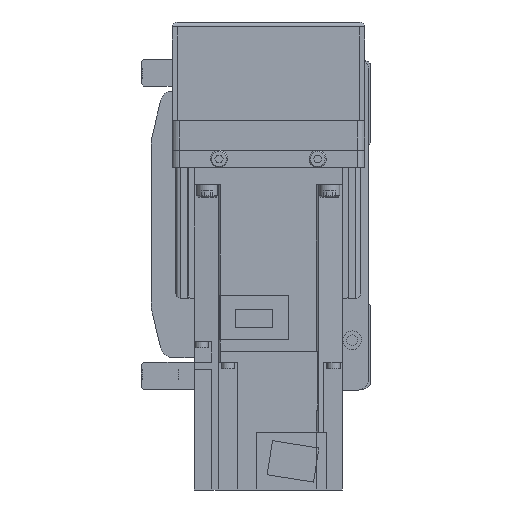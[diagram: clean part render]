
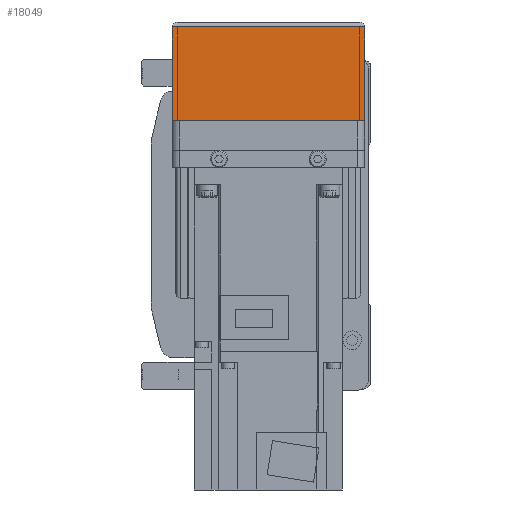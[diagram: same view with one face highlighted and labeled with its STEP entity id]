
A CAD part, left-side view. The second image highlights one B-rep face of the part: STEP entity #18049.
In plain terms, the highlighted planar face has unit normal (-1, 0, 0).
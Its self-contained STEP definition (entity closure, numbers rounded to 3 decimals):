
#2690=ORIENTED_EDGE('',*,*,#7263,.F.);
#2691=ORIENTED_EDGE('',*,*,#7264,.F.);
#2692=ORIENTED_EDGE('',*,*,#7265,.T.);
#2693=ORIENTED_EDGE('',*,*,#7266,.F.);
#7263=EDGE_CURVE('',#9648,#9639,#11513,.T.);
#7264=EDGE_CURVE('',#9665,#9648,#11514,.T.);
#7265=EDGE_CURVE('',#9665,#9666,#11515,.T.);
#7266=EDGE_CURVE('',#9639,#9666,#11516,.T.);
#9639=VERTEX_POINT('',#27706);
#9648=VERTEX_POINT('',#27724);
#9665=VERTEX_POINT('',#27772);
#9666=VERTEX_POINT('',#27774);
#11513=LINE('',#27770,#13163);
#11514=LINE('',#27771,#13164);
#11515=LINE('',#27773,#13165);
#11516=LINE('',#27775,#13166);
#13163=VECTOR('',#22225,1000.);
#13164=VECTOR('',#22226,1000.);
#13165=VECTOR('',#22227,1000.);
#13166=VECTOR('',#22228,1000.);
#14645=EDGE_LOOP('',(#2690,#2691,#2692,#2693));
#16055=FACE_BOUND('',#14645,.T.);
#17306=PLANE('',#19339);
#18049=ADVANCED_FACE('',(#16055),#17306,.F.);
#19339=AXIS2_PLACEMENT_3D('',#27769,#22223,#22224);
#22223=DIRECTION('',(1.,0.,0.));
#22224=DIRECTION('',(0.,0.,-1.));
#22225=DIRECTION('',(0.,-1.,0.));
#22226=DIRECTION('',(0.,0.,1.));
#22227=DIRECTION('',(0.,-1.,0.));
#22228=DIRECTION('',(0.,0.,-1.));
#27706=CARTESIAN_POINT('',(-158.,-39.,-12.1));
#27724=CARTESIAN_POINT('',(-158.,39.,-12.1));
#27769=CARTESIAN_POINT('',(-158.,36.,7.));
#27770=CARTESIAN_POINT('',(-158.,50.,-12.1));
#27771=CARTESIAN_POINT('',(-158.,39.,-50.));
#27772=CARTESIAN_POINT('',(-158.,39.,-50.));
#27773=CARTESIAN_POINT('',(-158.,40.,-50.));
#27774=CARTESIAN_POINT('',(-158.,-39.,-50.));
#27775=CARTESIAN_POINT('',(-158.,-39.,-12.1));
